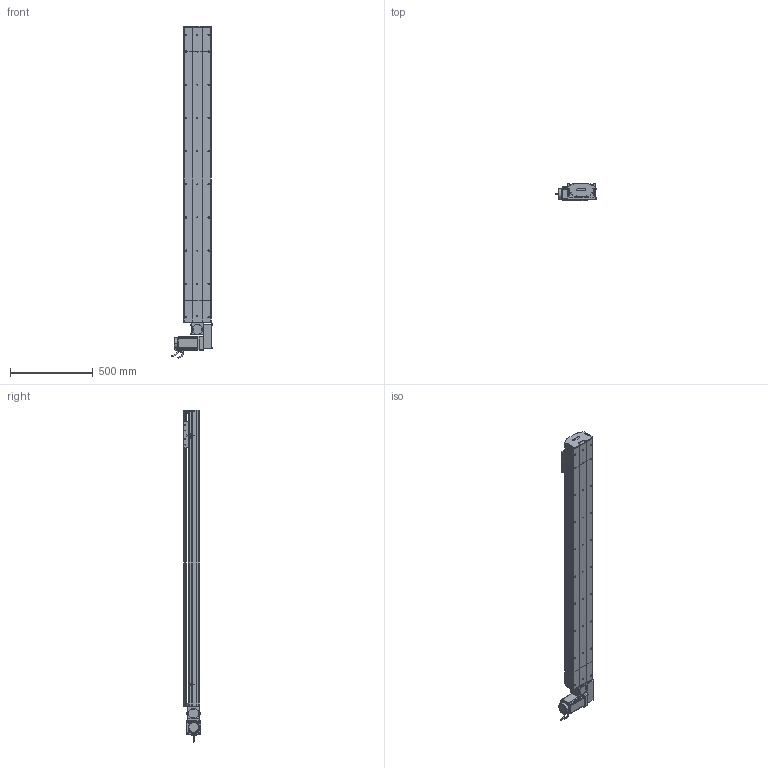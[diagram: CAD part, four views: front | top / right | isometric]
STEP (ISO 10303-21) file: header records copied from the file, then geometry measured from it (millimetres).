
FILE_DESCRIPTION (( 'STEP AP214' ), '1' );
FILE_NAME ('D17 TBH LH S1500.STEP', '2010-06-30T08:04:22', ( 'Christophe Gaillard' ), ( 'SGA' ), 'SwSTEP 2.0', 'SolidWorks 2010', '' );
FILE_SCHEMA (( 'AUTOMOTIVE_DESIGN' ));
Length unit declared in the file: millimetre
Products named in the file (40): Couroie tail D17B_Default; guide D17; vis M5 L12_Default; Chariot D17; chariot D17S_Default; vis M5 L25_Default; vis M5 L8 90°_Default; couvercle D17B_Default; poulie tail_Default; plaque de  bout tail D17B_Default; Rail D17B; Vis M5 L16-2_Default; vis M5 L16_Default; Plaque racord D17_Default; tete d''axe poulie D17B; corp tail D17B+100_Default; Tail D17B+100_Default; vis M5 L70_Default; Conecteur_Default; Conecteur2_Default; codeur 90BLDC125-640; vis M5 L5_Default; cache D17_Default; corps 90BLDC125A-640; avant 90BLDC125A-640; Moteur motionking 90BLDC125A-640; poulie head_Default; Renvoi LH_Default; couroie head D17_Default; cache arbre D17_Default; D17 TBH LH S1500; corp D17B 1500_Default; Couroie+ rail D17 Course 1500 ; course 1500 D17B_Default; corpl head D17 _Default; Head LH D17B_Default; couvercle D17B course L1500_Default; Arbre+rail head D17B; plaque de  bout head D17B LH_Default; couvercle D17B head_Default
Assembly tree (70 placements, depth 4):
  D17 TBH LH S1500
    Head LH D17B_Default
      vis M5 L70_Default  x4
      vis M5 L12_Default  x8
      cache D17_Default  x2
      Renvoi LH_Default
      Plaque racord D17_Default
      vis M5 L25_Default  x2
      Vis M5 L16-2_Default  x4
      vis M5 L5_Default  x4
      vis M5 L16_Default  x2
      Moteur motionking 90BLDC125A-640
        codeur 90BLDC125-640
        avant 90BLDC125A-640
        Conecteur2_Default
        Conecteur_Default
        corps 90BLDC125A-640
      cache arbre D17_Default
      poulie head_Default
      couvercle D17B head_Default
      plaque de  bout head D17B LH_Default
      couroie head D17_Default
      Arbre+rail head D17B
      corpl head D17 _Default
    course 1500 D17B_Default
      corp D17B 1500_Default
      couvercle D17B course L1500_Default
      Couroie+ rail D17 Course 1500 
    chariot D17S_Default
      vis M5 L12_Default  x4
      guide D17  x2
      Chariot D17
    Tail D17B+100_Default
      vis M5 L25_Default  x2
      corp tail D17B+100_Default
      Rail D17B
      vis M5 L12_Default  x4
      plaque de  bout tail D17B_Default
      vis M5 L8 90°_Default  x2
      poulie tail_Default
      tete d''axe poulie D17B
      couvercle D17B_Default
      Couroie tail D17B_Default
Bounding box: 245.2 x 105.65 x 2000.95 mm (x, y, z)
Volume: 11700713.1 mm3; surface area: 3318576.1 mm2
Topology: 94 solids, 94 shells, 2693 faces, 6795 edges, 4374 vertices
Faces by surface type: plane 1611, cylinder 769, bspline 136, cone 88, torus 85, sphere 4
Entity records: 84466 total; most frequent: CARTESIAN_POINT 24951, ORIENTED_EDGE 10362, DIRECTION 9830, EDGE_CURVE 5181, VECTOR 3456, LINE 3456, VERTEX_POINT 3398, AXIS2_PLACEMENT_3D 3187
